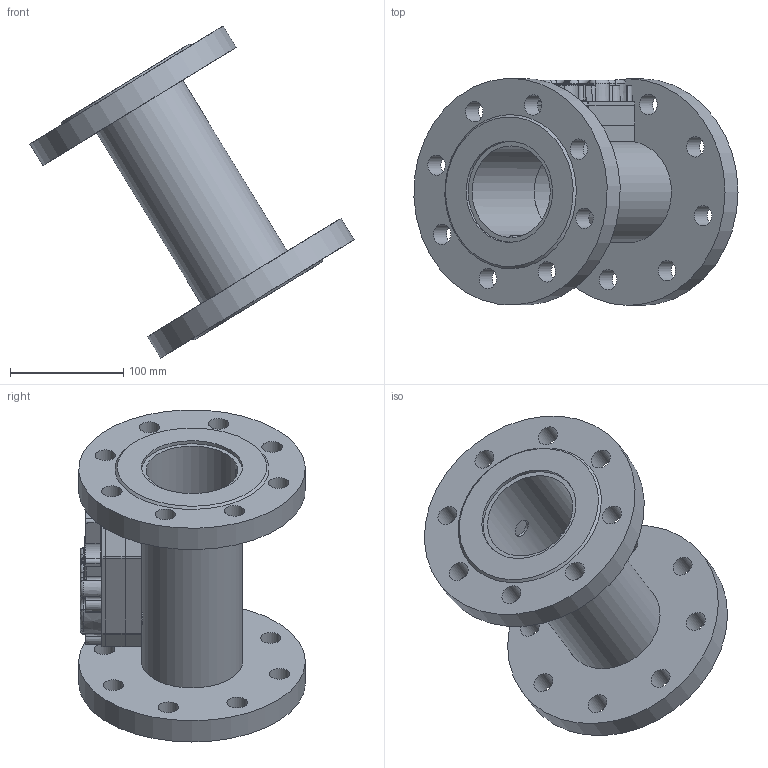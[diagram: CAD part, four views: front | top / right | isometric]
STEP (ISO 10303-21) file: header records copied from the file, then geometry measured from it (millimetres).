
FILE_DESCRIPTION( ( 'Unknown' ), '1' );
FILE_NAME( 'H:/440 pour vente_mai_2013/step_2/DN80_PN16-25_inox_225mm_rempli.stp', 'Unknown', ( 'Unknown' ), ( 'Unknown' ), 'PSStep 15.0.49', 'Unknown', ' ' );
FILE_SCHEMA( ( 'AUTOMOTIVE_DESIGN { 1 0 10303 214 1 1 1 1 }' ) );
Length unit declared in the file: millimetre
Products named in the file (9): 440_tête_rempli; 0440P011_rempli; 0440P012_rempli; 0440P060_rempli; Assem1; 0440P202_rempli; 0440P225_rempli; 0440P299_rempli; 0440P228_rempli
Assembly tree (10 placements, depth 3):
  Assem1
    0440P202_rempli
    0440P225_rempli  x2
    0440P299_rempli  x2
    0440P228_rempli
    440_tête_rempli
      0440P011_rempli
      0440P012_rempli
      0440P060_rempli
Bounding box: 285.82 x 200 x 292.82 mm (x, y, z)
Volume: 1680003.3 mm3; surface area: 363365.1 mm2
Topology: 9 solids, 14 shells, 276 faces, 701 edges, 440 vertices
Faces by surface type: cylinder 96, plane 79, cone 57, torus 29, bspline 15
Full cylindrical faces by diameter (mm): 2.2 x1, 2.459 x2, 2.5 x1, 3 x2, 3.242 x4, 4.1 x1, 5.03 x1, 6 x1, 6.2 x6, 6.917 x2, 10.2 x2, 16 x2, 18 x16, 20 x4, 82.5 x1, 88.9 x1, 89.3 x2, 200 x2
Entity records: 13583 total; most frequent: CARTESIAN_POINT 5537, DIRECTION 1281, ORIENTED_EDGE 1090, EDGE_CURVE 545, AXIS2_PLACEMENT_3D 538, VERTEX_POINT 377, EDGE_LOOP 362, FACE_OUTER_BOUND 297
